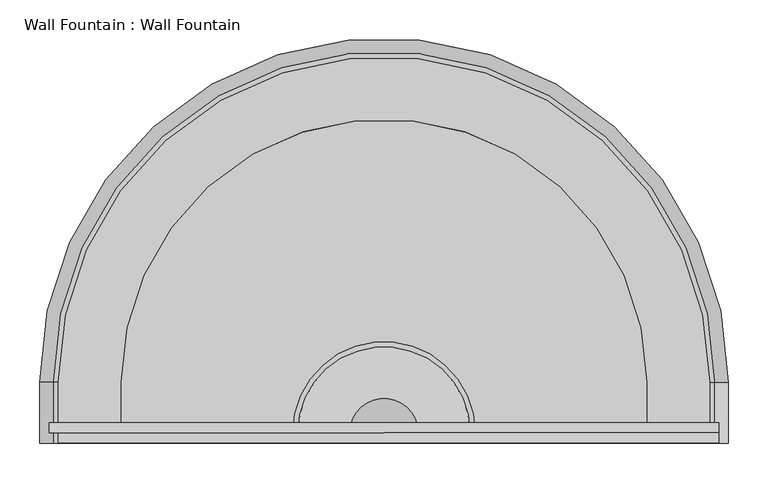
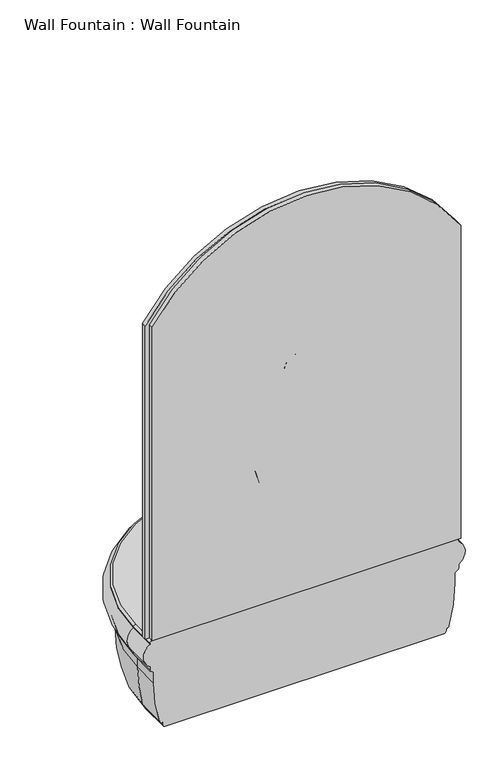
"""IFC4 building model written with IfcOpenShell, lengths in millimetres: proxy geometry, Wall Fountain : Wall Fountain."""

from ifc_helpers import new_model, si_unit, point, frame, frame_2d, origin, place, context, project, spatial, polyline, circle_curve, ellipse_curve, trimmed, segment, composite_curve, outline, extrude, source, transform, mapped, element, save
from ifc_brep_helpers import plane_surface, cylinder_surface, revolved_surface, advanced_brep


def wall_fountain_wall_fountain_90bc1599(model_context):
    return source(origin(), model_context, "Body", "SolidModel", [
        extrude(outline(composite_curve([segment(trimmed(circle_curve(frame_2d((1491.5508554, 5.8473581)), 489.6491446), [point((1752.6, 420.1052837))], [point((1752.6, -408.4105674))], False, "CARTESIAN"), True, "CONTINUOUS"), segment(polyline([(1752.6, -408.4105674), (863.6, -408.4105674), (863.6, 420.1052837), (1752.6, 420.1052837)]), True, "CONTINUOUS")], self_intersect=False)), frame((0.0, 152.4, 0.0), z_axis=(0.0, 1.0, 0.0), x_axis=(0.0, 0.0, 1.0)), (0.0, 0.0, 1.0), 12.7),
        advanced_brep(
        [(-408.4105674, 152.4, 863.6), (-414.7605674, 152.4, 857.25), (-414.7605674, 152.4, 855.6625), (-414.7605674, 152.4, 792.1625), (-414.7605674, 152.4, 782.7681008), (-412.0527778, 152.4, 777.5664853), (-404.3573365, 152.4, 772.1780793), (-404.3573365, 152.4, 742.0155793), (-388.670163, 152.4, 626.9501693), (-381.0, 152.4, 622.3), (-381.0, 152.4, 615.95), (-374.65, 152.4, 609.6), (374.65, 152.4, 609.6), (381.0, 152.4, 615.95), (381.0, 152.4, 622.3), (388.670163, 152.4, 626.9501693), (404.3573365, 152.4, 742.0155793), (404.3573365, 152.4, 772.1780793), (412.0527778, 152.4, 777.5664853), (414.7605674, 152.4, 782.7681008), (414.7605674, 152.4, 792.1625), (414.7605674, 152.4, 855.6625), (414.7605674, 152.4, 857.25), (408.4105674, 152.4, 863.6), (-414.7605674, 228.6, 857.25), (-414.7605674, 228.6, 855.6625), (-414.7605674, 228.6, 792.1625), (-414.7605674, 228.6, 782.7681008), (-412.0527778, 228.6, 777.5664853), (-404.3573365, 228.6, 772.1780793), (-404.3573365, 228.6, 742.0155793), (-388.670163, 228.6, 626.9501693), (-381.0, 228.6, 622.3), (-381.0, 228.6, 615.95), (-374.65, 228.6, 609.6), (374.65, 228.6, 609.6), (-330.2, 228.6, 863.6), (-330.2, 177.8, 863.6), (-330.2, 177.8, 660.4), (-330.2, 228.6, 660.4), (408.4105674, 165.1, 863.6), (-408.4105674, 165.1, 863.6), (330.2, 228.6, 863.6), (330.2, 177.8, 863.6), (408.4105674, 177.8, 863.6), (408.4105674, 228.6, 863.6), (-408.4105674, 228.6, 863.6), (-408.4105674, 177.8, 863.6), (414.7605674, 228.6, 857.25), (414.7605674, 228.6, 855.6625), (414.7605674, 228.6, 792.1625), (414.7605674, 228.6, 782.7681008), (412.0527778, 228.6, 777.5664853), (404.3573365, 228.6, 772.1780793), (404.3573365, 228.6, 742.0155793), (388.670163, 228.6, 626.9501693), (381.0, 228.6, 622.3), (381.0, 228.6, 615.95), (330.2, 228.6, 660.4), (330.2, 177.8, 660.4), (-420.1052837, 177.8, 863.6), (-420.1052837, 177.8, 1752.6), (420.1052837, 177.8, 1752.6), (420.1052837, 177.8, 863.6), (-388.3552837, 177.8, 1743.0595447), (-388.3552837, 177.8, 895.35), (388.3552837, 177.8, 895.35), (388.3552837, 177.8, 1743.0595447), (-420.1052837, 165.1, 1752.6), (420.1052837, 165.1, 1752.6), (-420.1052837, 165.1, 863.6), (420.1052837, 165.1, 863.6), (-356.6052837, 165.1, 1733.1585546), (356.6052837, 165.1, 1733.1585546), (356.6052837, 165.1, 927.1), (-356.6052837, 165.1, 927.1), (-356.6052837, 171.45, 1733.1585546), (356.6052837, 171.45, 1733.1585546), (-356.6052837, 171.45, 927.1), (356.6052837, 171.45, 927.1), (-388.3552837, 171.45, 1743.0595447), (388.3552837, 171.45, 1743.0595447), (388.3552837, 171.45, 895.35), (-388.3552837, 171.45, 895.35)],
        [
            (0, 1, circle_curve(frame((-408.4105674, 152.4, 857.25), z_axis=(0.0, -1.0, 0.0), x_axis=(-1.0, 0.0, 0.0)), 6.35)),
            (1, 2),
            (2, 3, circle_curve(frame((-393.7, 152.4, 823.9125), z_axis=(0.0, -1.0, 0.0), x_axis=(-1.0, 0.0, 0.0)), 38.1)),
            (3, 4),
            (4, 5, circle_curve(frame((-408.4105674, 152.4, 782.7681008), z_axis=(0.0, -1.0, 0.0), x_axis=(-1.0, 0.0, 0.0)), 6.35)),
            (5, 6),
            (6, 7),
            (7, 8, circle_curve(frame((25.4886141, 152.4, 742.0155793), z_axis=(0.0, -1.0, 0.0), x_axis=(-1.0, 0.0, 0.0)), 429.8459505)),
            (8, 9, circle_curve(frame((-382.3631056, 152.4, 628.7024541), z_axis=(0.0, -1.0, 0.0), x_axis=(-1.0, 0.0, 0.0)), 6.5459511)),
            (9, 10),
            (10, 11, circle_curve(frame((-374.65, 152.4, 615.95), z_axis=(0.0, -1.0, 0.0), x_axis=(-1.0, 0.0, 0.0)), 6.35)),
            (11, 12),
            (12, 13, circle_curve(frame((374.65, 152.4, 615.95), z_axis=(0.0, -1.0, 0.0), x_axis=(1.0, 0.0, 0.0)), 6.35)),
            (13, 14),
            (14, 15, circle_curve(frame((382.3631056, 152.4, 628.7024541), z_axis=(0.0, -1.0, 0.0), x_axis=(1.0, 0.0, 0.0)), 6.5459511)),
            (15, 16, circle_curve(frame((-25.4886141, 152.4, 742.0155793), z_axis=(0.0, -1.0, 0.0), x_axis=(1.0, 0.0, 0.0)), 429.8459505)),
            (16, 17),
            (17, 18),
            (18, 19, circle_curve(frame((408.4105674, 152.4, 782.7681008), z_axis=(0.0, -1.0, 0.0), x_axis=(1.0, 0.0, 0.0)), 6.35)),
            (19, 20),
            (20, 21, circle_curve(frame((393.7, 152.4, 823.9125), z_axis=(0.0, -1.0, 0.0), x_axis=(1.0, 0.0, 0.0)), 38.1)),
            (21, 22),
            (22, 23, circle_curve(frame((408.4105674, 152.4, 857.25), z_axis=(0.0, -1.0, 0.0), x_axis=(1.0, 0.0, 0.0)), 6.35)),
            (23, 0),
            (1, 24),
            (24, 25),
            (25, 2),
            (25, 26, circle_curve(frame((-393.7, 228.6, 823.9125), z_axis=(0.0, -1.0, 0.0), x_axis=(-1.0, 0.0, 0.0)), 38.1)),
            (26, 3),
            (26, 27),
            (27, 4),
            (27, 28, circle_curve(frame((-408.4105674, 228.6, 782.7681008), z_axis=(0.0, -1.0, 0.0), x_axis=(-1.0, 0.0, 0.0)), 6.35)),
            (28, 5),
            (28, 29),
            (29, 6),
            (29, 30),
            (30, 7),
            (30, 31, circle_curve(frame((25.4886141, 228.6, 742.0155793), z_axis=(0.0, -1.0, 0.0), x_axis=(-1.0, 0.0, 0.0)), 429.8459505)),
            (31, 8),
            (31, 32, circle_curve(frame((-382.3631056, 228.6, 628.7024541), z_axis=(0.0, -1.0, 0.0), x_axis=(-1.0, 0.0, 0.0)), 6.5459511)),
            (32, 9),
            (32, 33),
            (33, 10),
            (33, 34, circle_curve(frame((-374.65, 228.6, 615.95), z_axis=(0.0, -1.0, 0.0), x_axis=(-1.0, 0.0, 0.0)), 6.35)),
            (34, 11),
            (34, 35, circle_curve(frame((0.0, 228.6, 609.6), z_axis=(0.0, 0.0, -1.0), x_axis=(-1.0, 0.0, 0.0)), 374.65)),
            (35, 12),
            (36, 37),
            (37, 38),
            (38, 39),
            (39, 36),
            (23, 40),
            (40, 41),
            (41, 0),
            (36, 42, circle_curve(frame((0.0, 228.6, 863.6), z_axis=(0.0, 0.0, -1.0), x_axis=(-1.0, 0.0, 0.0)), 330.2)),
            (42, 43),
            (43, 44),
            (44, 45),
            (45, 46, circle_curve(frame((0.0, 228.6, 863.6), z_axis=(0.0, 0.0, 1.0), x_axis=(-1.0, 0.0, 0.0)), 408.4105674)),
            (46, 47),
            (47, 37),
            (24, 48, circle_curve(frame((0.0, 228.6, 857.25), z_axis=(0.0, 0.0, -1.0), x_axis=(-1.0, 0.0, 0.0)), 414.7605674)),
            (48, 49),
            (49, 25, circle_curve(frame((0.0, 228.6, 855.6625), z_axis=(0.0, 0.0, 1.0), x_axis=(-1.0, 0.0, 0.0)), 414.7605674)),
            (49, 50, circle_curve(frame((393.7, 228.6, 823.9125), z_axis=(0.0, 1.0, 0.0), x_axis=(1.0, 0.0, 0.0)), 38.1)),
            (50, 26, circle_curve(frame((0.0, 228.6, 792.1625), z_axis=(0.0, 0.0, 1.0), x_axis=(-1.0, 0.0, 0.0)), 414.7605674)),
            (50, 51),
            (51, 27, circle_curve(frame((0.0, 228.6, 782.7681008), z_axis=(0.0, 0.0, 1.0), x_axis=(-1.0, 0.0, 0.0)), 414.7605674)),
            (51, 52, circle_curve(frame((408.4105674, 228.6, 782.7681008), z_axis=(0.0, 1.0, 0.0), x_axis=(1.0, 0.0, 0.0)), 6.35)),
            (52, 28, circle_curve(frame((0.0, 228.6, 777.5664853), z_axis=(0.0, 0.0, 1.0), x_axis=(-1.0, 0.0, 0.0)), 412.0527778)),
            (52, 53),
            (53, 29, circle_curve(frame((0.0, 228.6, 772.1780793), z_axis=(0.0, 0.0, 1.0), x_axis=(-1.0, 0.0, 0.0)), 404.3573365)),
            (53, 54),
            (54, 30, circle_curve(frame((0.0, 228.6, 742.0155793), z_axis=(0.0, 0.0, 1.0), x_axis=(-1.0, 0.0, 0.0)), 404.3573365)),
            (54, 55, circle_curve(frame((-25.4886141, 228.6, 742.0155793), z_axis=(0.0, 1.0, 0.0), x_axis=(1.0, 0.0, 0.0)), 429.8459505)),
            (55, 31, circle_curve(frame((0.0, 228.6, 626.9501693), z_axis=(0.0, 0.0, 1.0), x_axis=(-1.0, 0.0, 0.0)), 388.670163)),
            (55, 56, circle_curve(frame((382.3631056, 228.6, 628.7024541), z_axis=(0.0, 1.0, 0.0), x_axis=(1.0, 0.0, 0.0)), 6.5459511)),
            (56, 32, circle_curve(frame((0.0, 228.6, 622.3), z_axis=(0.0, 0.0, 1.0), x_axis=(-1.0, 0.0, 0.0)), 381.0)),
            (56, 57),
            (57, 33, circle_curve(frame((0.0, 228.6, 615.95), z_axis=(0.0, 0.0, 1.0), x_axis=(-1.0, 0.0, 0.0)), 381.0)),
            (57, 35, circle_curve(frame((374.65, 228.6, 615.95), z_axis=(0.0, 1.0, 0.0), x_axis=(1.0, 0.0, 0.0)), 6.35)),
            (39, 58, circle_curve(frame((0.0, 228.6, 660.4), z_axis=(0.0, 0.0, -1.0), x_axis=(-1.0, 0.0, 0.0)), 330.2)),
            (58, 42),
            (21, 49),
            (48, 22),
            (20, 50),
            (19, 51),
            (18, 52),
            (17, 53),
            (16, 54),
            (15, 55),
            (14, 56),
            (13, 57),
            (58, 59),
            (59, 43),
            (41, 47),
            (46, 24, circle_curve(frame((-408.4105674, 228.6, 857.25), z_axis=(0.0, -1.0, 0.0), x_axis=(-1.0, 0.0, 0.0)), 6.35)),
            (45, 48, circle_curve(frame((408.4105674, 228.6, 857.25), z_axis=(0.0, 1.0, 0.0), x_axis=(1.0, 0.0, 0.0)), 6.35)),
            (44, 40),
            (47, 60),
            (60, 61),
            (61, 62, circle_curve(frame((0.0, 177.8, 1480.8797695), z_axis=(0.0, 1.0, 0.0), x_axis=(0.8396727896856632, 0.0, 0.5430926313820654)), 500.3202305)),
            (62, 63),
            (63, 44),
            (59, 38),
            (64, 65),
            (65, 66),
            (66, 67),
            (67, 64, circle_curve(frame((0.0, 177.8, 1480.8797695), z_axis=(0.0, -1.0, 0.0), x_axis=(0.8396727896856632, 0.0, 0.5430926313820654)), 468.5702305)),
            (68, 69, circle_curve(frame((0.0, 165.1, 1480.8797695), z_axis=(0.0, 1.0, 0.0), x_axis=(0.8396727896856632, 0.0, 0.5430926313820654)), 500.3202305)),
            (69, 62),
            (61, 68),
            (68, 70),
            (70, 41),
            (40, 71),
            (71, 69),
            (72, 73, circle_curve(frame((0.0, 165.1, 1480.8797695), z_axis=(0.0, 1.0, 0.0), x_axis=(0.8396727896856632, 0.0, 0.5430926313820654)), 436.8202305)),
            (73, 74),
            (74, 75),
            (75, 72),
            (72, 76),
            (76, 77, circle_curve(frame((0.0, 171.45, 1480.8797695), z_axis=(0.0, 1.0, 0.0), x_axis=(0.8396727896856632, 0.0, 0.5430926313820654)), 436.8202305)),
            (77, 73),
            (60, 70),
            (75, 78),
            (78, 76),
            (63, 71),
            (74, 79),
            (79, 78),
            (77, 79),
            (80, 81, circle_curve(frame((0.0, 171.45, 1480.8797695), z_axis=(0.0, 1.0, 0.0), x_axis=(0.8396727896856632, 0.0, 0.5430926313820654)), 468.5702305)),
            (81, 82),
            (82, 83),
            (83, 80),
            (67, 81),
            (80, 64),
            (83, 65),
            (82, 66),
        ],
        [
            plane_surface(frame((-431.8, 152.4, 609.6), z_axis=(0.0, -1.0, 0.0), x_axis=(0.0, 0.0, 1.0))),
            plane_surface(frame((-414.7605674, 152.4, 857.25), z_axis=(-1.0, 0.0, 0.0), x_axis=(0.0, 1.0, 0.0))),
            cylinder_surface(frame((-393.7, 152.4, 823.9125), z_axis=(0.0, -1.0, 0.0), x_axis=(-1.0, 0.0, 0.0)), 38.1),
            plane_surface(frame((-414.7605674, 152.4, 792.1625), z_axis=(-1.0, 0.0, 0.0), x_axis=(0.0, 1.0, 0.0))),
            cylinder_surface(frame((-408.4105674, 152.4, 782.7681008), z_axis=(0.0, -1.0, 0.0), x_axis=(-1.0, 0.0, 0.0)), 6.35),
            plane_surface(frame((-412.0527778, 152.4, 777.5664853), z_axis=(-0.5735764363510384, 0.0, -0.8191520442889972), x_axis=(0.0, 1.0, 0.0))),
            plane_surface(frame((-404.3573365, 152.4, 772.1780793), z_axis=(-1.0, 0.0, 0.0), x_axis=(0.0, 1.0, 0.0))),
            cylinder_surface(frame((25.4886141, 152.4, 742.0155793), z_axis=(0.0, -1.0, 0.0), x_axis=(-1.0, 0.0, 0.0)), 429.8459505),
            cylinder_surface(frame((-382.3631056, 152.4, 628.7024541), z_axis=(0.0, -1.0, 0.0), x_axis=(-1.0, 0.0, 0.0)), 6.5459511),
            plane_surface(frame((-381.0, 152.4, 622.3), z_axis=(-1.0, 0.0, 0.0), x_axis=(0.0, 1.0, 0.0))),
            cylinder_surface(frame((-374.65, 152.4, 615.95), z_axis=(0.0, -1.0, 0.0), x_axis=(-1.0, 0.0, 0.0)), 6.35),
            plane_surface(frame((-374.65, 152.4, 609.6), z_axis=(0.0, 0.0, -1.0), x_axis=(0.0, 1.0, 0.0))),
            plane_surface(frame((-330.2, 152.4, 609.6), z_axis=(1.0, 0.0, 0.0), x_axis=(0.0, 1.0, 0.0))),
            plane_surface(frame((-330.2, 152.4, 863.6), z_axis=(0.0, 0.0, 1.0), x_axis=(0.0, 1.0, 0.0))),
            cylinder_surface(frame((0.0, 228.6, 609.6), z_axis=(0.0, 0.0, -1.0), x_axis=(-1.0, 0.0, 0.0)), 414.7605674),
            revolved_surface(trimmed(ellipse_curve(frame((-393.7, 228.6, 823.9125), z_axis=(0.0, -1.0, 0.0), x_axis=(-1.0, 0.0, 0.0)), 38.1, 38.1), [point((-414.7605674, 228.6, 855.6625))], [point((-414.7605674, 228.6, 792.1625))], True, "CARTESIAN"), (0.0, 228.6, 609.6), (0.0, 0.0, -1.0)),
            revolved_surface(trimmed(ellipse_curve(frame((-408.4105674, 228.6, 782.7681008), z_axis=(0.0, -1.0, 0.0), x_axis=(-1.0, 0.0, 0.0)), 6.35, 6.35), [point((-414.7605674, 228.6, 782.7681008))], [point((-412.0527778, 228.6, 777.5664853))], True, "CARTESIAN"), (0.0, 228.6, 609.6), (0.0, 0.0, -1.0)),
            revolved_surface(polyline([(-412.0527778, 228.6, 777.5664853), (-404.3573365, 228.6, 772.1780793)]), (0.0, 228.6, 609.6), (0.0, 0.0, -1.0)),
            cylinder_surface(frame((0.0, 228.6, 609.6), z_axis=(0.0, 0.0, -1.0), x_axis=(-1.0, 0.0, 0.0)), 404.3573365),
            revolved_surface(trimmed(ellipse_curve(frame((25.4886141, 228.6, 742.0155793), z_axis=(0.0, -1.0, 0.0), x_axis=(-1.0, 0.0, 0.0)), 429.8459505, 429.8459505), [point((-404.3573365, 228.6, 742.0155793))], [point((-388.670163, 228.6, 626.9501693))], True, "CARTESIAN"), (0.0, 228.6, 609.6), (0.0, 0.0, -1.0)),
            revolved_surface(trimmed(ellipse_curve(frame((-382.3631056, 228.6, 628.7024541), z_axis=(0.0, -1.0, 0.0), x_axis=(-1.0, 0.0, 0.0)), 6.5459511, 6.5459511), [point((-388.670163, 228.6, 626.9501693))], [point((-381.0, 228.6, 622.3))], True, "CARTESIAN"), (0.0, 228.6, 609.6), (0.0, 0.0, -1.0)),
            cylinder_surface(frame((0.0, 228.6, 609.6), z_axis=(0.0, 0.0, -1.0), x_axis=(-1.0, 0.0, 0.0)), 381.0),
            revolved_surface(trimmed(ellipse_curve(frame((-374.65, 228.6, 615.95), z_axis=(0.0, -1.0, 0.0), x_axis=(-1.0, 0.0, 0.0)), 6.35, 6.35), [point((-381.0, 228.6, 615.95))], [point((-374.65, 228.6, 609.6))], True, "CARTESIAN"), (0.0, 228.6, 609.6), (0.0, 0.0, -1.0)),
            revolved_surface(polyline([(-330.2, 228.6, 660.4), (-330.2, 228.6, 863.6)]), (0.0, 228.6, 609.6), (0.0, 0.0, -1.0)),
            plane_surface(frame((414.7605674, 228.6, 857.25), z_axis=(1.0, 0.0, 0.0), x_axis=(0.0, -1.0, 0.0))),
            cylinder_surface(frame((393.7, 228.6, 823.9125), z_axis=(0.0, 1.0, 0.0), x_axis=(1.0, 0.0, 0.0)), 38.1),
            plane_surface(frame((414.7605674, 228.6, 792.1625), z_axis=(1.0, 0.0, 0.0), x_axis=(0.0, -1.0, 0.0))),
            cylinder_surface(frame((408.4105674, 228.6, 782.7681008), z_axis=(0.0, 1.0, 0.0), x_axis=(1.0, 0.0, 0.0)), 6.35),
            plane_surface(frame((412.0527778, 228.6, 777.5664853), z_axis=(0.5735764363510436, 0.0, -0.8191520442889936), x_axis=(0.0, -1.0, 0.0))),
            plane_surface(frame((404.3573365, 228.6, 772.1780793), z_axis=(1.0, 0.0, 0.0), x_axis=(0.0, -1.0, 0.0))),
            cylinder_surface(frame((-25.4886141, 228.6, 742.0155793), z_axis=(0.0, 1.0, 0.0), x_axis=(1.0, 0.0, 0.0)), 429.8459505),
            cylinder_surface(frame((382.3631056, 228.6, 628.7024541), z_axis=(0.0, 1.0, 0.0), x_axis=(1.0, 0.0, 0.0)), 6.5459511),
            plane_surface(frame((381.0, 228.6, 622.3), z_axis=(1.0, 0.0, 0.0), x_axis=(0.0, -1.0, 0.0))),
            cylinder_surface(frame((374.65, 228.6, 615.95), z_axis=(0.0, 1.0, 0.0), x_axis=(1.0, 0.0, 0.0)), 6.35),
            plane_surface(frame((330.2, 228.6, 609.6), z_axis=(-1.0, 0.0, 0.0), x_axis=(0.0, -1.0, 0.0))),
            cylinder_surface(frame((-408.4105674, 152.4, 857.25), z_axis=(0.0, -1.0, 0.0), x_axis=(-1.0, 0.0, 0.0)), 6.35),
            revolved_surface(trimmed(ellipse_curve(frame((-408.4105674, 228.6, 857.25), z_axis=(0.0, -1.0, 0.0), x_axis=(-1.0, 0.0, 0.0)), 6.35, 6.35), [point((-408.4105674, 228.6, 863.6))], [point((-414.7605674, 228.6, 857.25))], True, "CARTESIAN"), (0.0, 228.6, 609.6), (0.0, 0.0, -1.0)),
            cylinder_surface(frame((408.4105674, 228.6, 857.25), z_axis=(0.0, 1.0, 0.0), x_axis=(1.0, 0.0, 0.0)), 6.35),
            plane_surface(frame((330.2, 177.8, 660.4), z_axis=(0.0, 1.0, 0.0), x_axis=(-1.0, 0.0, 0.0))),
            plane_surface(frame((330.2, 228.6, 660.4), z_axis=(0.0, 0.0, 1.0), x_axis=(0.0, 1.0, 0.0))),
            cylinder_surface(frame((0.0, 152.4, 1480.8797695), z_axis=(0.0, -1.0, 0.0), x_axis=(0.8396727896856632, 0.0, 0.5430926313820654)), 500.3202305),
            plane_surface(frame((0.0, 165.1, 1480.8797695), z_axis=(0.0, -1.0, 0.0), x_axis=(0.8396727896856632, 0.0, 0.5430926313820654))),
            revolved_surface(polyline([(366.7860615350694, 165.1, 1718.1136179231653), (366.7860615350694, 171.45, 1718.1136179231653)]), (0.0, 152.4, 1480.8797695), (0.0, -1.0, 0.0)),
            plane_surface(frame((-420.1052837, 177.8, 1752.6), z_axis=(-1.0, 0.0, 0.0), x_axis=(0.0, 0.0, -1.0))),
            plane_surface(frame((-356.6052837, 165.1, 1733.1585546), z_axis=(1.0, 0.0, 0.0), x_axis=(0.0, 0.0, -1.0))),
            plane_surface(frame((-420.1052837, 177.8, 863.6), z_axis=(0.0, 0.0, -1.0), x_axis=(1.0, 0.0, 0.0))),
            plane_surface(frame((-356.6052837, 165.1, 927.1), z_axis=(0.0, 0.0, 1.0), x_axis=(1.0, 0.0, 0.0))),
            plane_surface(frame((420.1052837, 177.8, 863.6), z_axis=(1.0, 0.0, 0.0), x_axis=(0.0, 0.0, 1.0))),
            plane_surface(frame((356.6052837, 165.1, 927.1), z_axis=(-1.0, 0.0, 0.0), x_axis=(0.0, 0.0, 1.0))),
            plane_surface(frame((0.0, 171.45, 1480.8797695), z_axis=(0.0, 1.0, 0.0), x_axis=(0.8396727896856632, 0.0, 0.5430926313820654))),
            revolved_surface(polyline([(393.4456726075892, 171.45, 1735.356808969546), (393.4456726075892, 177.8, 1735.356808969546)]), (0.0, 152.4, 1480.8797695), (0.0, -1.0, 0.0)),
            plane_surface(frame((-388.3552837, 171.45, 1743.0595447), z_axis=(1.0, 0.0, 0.0), x_axis=(0.0, 0.0, -1.0))),
            plane_surface(frame((-388.3552837, 171.45, 895.35), z_axis=(0.0, 0.0, 1.0), x_axis=(1.0, 0.0, 0.0))),
            plane_surface(frame((388.3552837, 171.45, 895.35), z_axis=(-1.0, 0.0, 0.0), x_axis=(0.0, 0.0, 1.0))),
        ],
        [
            (0, [[1, 2, 3, 4, 5, 6, 7, 8, 9, 10, 11, 12, 13, 14, 15, 16, 17, 18, 19, 20, 21, 22, 23, 24]]),
            (1, [[-2, 25, 26, 27]]),
            (2, [[-3, -27, 28, 29]]),
            (3, [[-4, -29, 30, 31]]),
            (4, [[-5, -31, 32, 33]]),
            (5, [[-6, -33, 34, 35]]),
            (6, [[-7, -35, 36, 37]]),
            (7, [[-8, -37, 38, 39]]),
            (8, [[-9, -39, 40, 41]]),
            (9, [[-10, -41, 42, 43]]),
            (10, [[-11, -43, 44, 45]]),
            (11, [[-45, 46, 47, -12]]),
            (12, [[48, 49, 50, 51]]),
            (13, [[-24, 52, 53, 54]]),
            (13, [[55, 56, 57, 58, 59, 60, 61, -48]]),
            (14, [[-26, 62, 63, 64]]),
            (15, [[-28, -64, 65, 66]]),
            (14, [[-30, -66, 67, 68]]),
            (16, [[-32, -68, 69, 70]]),
            (17, [[-34, -70, 71, 72]]),
            (18, [[-36, -72, 73, 74]]),
            (19, [[-38, -74, 75, 76]]),
            (20, [[-40, -76, 77, 78]]),
            (21, [[-42, -78, 79, 80]]),
            (22, [[-44, -80, 81, -46]]),
            (23, [[-55, -51, 82, 83]]),
            (24, [[-22, 84, -63, 85]]),
            (25, [[-21, 86, -65, -84]]),
            (26, [[-20, 87, -67, -86]]),
            (27, [[-19, 88, -69, -87]]),
            (28, [[-18, 89, -71, -88]]),
            (29, [[-17, 90, -73, -89]]),
            (30, [[-16, 91, -75, -90]]),
            (31, [[-15, 92, -77, -91]]),
            (32, [[-14, 93, -79, -92]]),
            (33, [[-13, -47, -81, -93]]),
            (34, [[-56, -83, 94, 95]]),
            (35, [[-1, -54, 96, -60, 97, -25]]),
            (36, [[-59, 98, -62, -97]]),
            (37, [[-23, -85, -98, -58, 99, -52]]),
            (38, [[-49, -61, 100, 101, 102, 103, 104, -57, -95, 105], [106, 107, 108, 109]]),
            (39, [[-50, -105, -94, -82]]),
            (40, [[110, 111, -102, 112]]),
            (41, [[-110, 113, 114, -53, 115, 116], [117, 118, 119, 120]]),
            (42, [[-117, 121, 122, 123]]),
            (43, [[-112, -101, 124, -113]]),
            (44, [[-120, 125, 126, -121]]),
            (45, [[-124, -100, -96, -114]]),
            (45, [[127, -115, -99, -104]]),
            (46, [[-119, 128, 129, -125]]),
            (47, [[-111, -116, -127, -103]]),
            (48, [[-118, -123, 130, -128]]),
            (49, [[131, 132, 133, 134], [-122, -126, -129, -130]]),
            (50, [[-109, 135, -131, 136]]),
            (51, [[-106, -136, -134, 137]]),
            (52, [[-107, -137, -133, 138]]),
            (53, [[-108, -138, -132, -135]]),
        ],
    ),
        advanced_brep(
        [(0.0, 165.1, 1105.0127234), (-107.9490786, 165.1, 1238.25), (-114.3, 165.1, 1238.25), (0.0, 165.1, 1098.55), (114.3, 165.1, 1238.25), (107.9490786, 165.1, 1238.25)],
        [
            (0, 1, circle_curve(frame((25.3806527, 165.1, 1235.9250795), z_axis=(0.0, 1.0, 0.0), x_axis=(1.0, 0.0, 0.0)), 133.35)),
            (1, 2),
            (2, 3, circle_curve(frame((25.3806527, 165.1, 1235.9250795), z_axis=(0.0, -1.0, 0.0), x_axis=(1.0, 0.0, 0.0)), 139.7)),
            (3, 0),
            (3, 4, circle_curve(frame((-25.3806527, 165.1, 1235.9250795), z_axis=(0.0, -1.0, 0.0), x_axis=(-1.0, 0.0, 0.0)), 139.7)),
            (4, 5),
            (5, 0, circle_curve(frame((-25.3806527, 165.1, 1235.9250795), z_axis=(0.0, 1.0, 0.0), x_axis=(-1.0, 0.0, 0.0)), 133.35)),
            (5, 1, circle_curve(frame((0.0, 165.1, 1238.25), z_axis=(0.0, 0.0, 1.0), x_axis=(-1.0, 0.0, 0.0)), 107.9490786)),
            (4, 2, circle_curve(frame((0.0, 165.1, 1238.25), z_axis=(0.0, 0.0, 1.0), x_axis=(-1.0, 0.0, 0.0)), 114.3)),
        ],
        [
            plane_surface(frame((0.0, 165.1, 1105.0127234), z_axis=(0.0, -1.0, 0.0), x_axis=(-1.0, 0.0, 0.0))),
            plane_surface(frame((0.0, 165.1, 1105.0127234), z_axis=(0.0, -1.0, 0.0), x_axis=(1.0, 0.0, 0.0))),
            revolved_surface(trimmed(ellipse_curve(frame((25.3806527, 165.1, 1235.9250795), z_axis=(0.0, 1.0, 0.0), x_axis=(1.0, 0.0, 0.0)), 133.35, 133.35), [point((0.0, 165.1, 1105.0127234))], [point((-107.9490786, 165.1, 1238.25))], True, "CARTESIAN"), (0.0, 165.1, 1105.0127234), (0.0, 0.0, -1.0)),
            plane_surface(frame((0.0, 165.1, 1238.25), z_axis=(0.0, 0.0, 1.0), x_axis=(-1.0, 0.0, 0.0))),
            revolved_surface(trimmed(ellipse_curve(frame((25.3806527, 165.1, 1235.9250795), z_axis=(0.0, -1.0, 0.0), x_axis=(1.0, 0.0, 0.0)), 139.7, 139.7), [point((-114.3, 165.1, 1238.25))], [point((0.0, 165.1, 1098.55))], True, "CARTESIAN"), (0.0, 165.1, 1105.0127234), (0.0, 0.0, -1.0)),
        ],
        [
            (0, [[1, 2, 3, 4]]),
            (1, [[5, 6, 7, -4]]),
            (2, [[8, -1, -7]]),
            (3, [[9, -2, -8, -6]]),
            (4, [[-3, -9, -5]]),
        ],
    ),
        advanced_brep(
        [(0.0, 165.1, 1523.1639787), (0.0, 165.1, 1525.5875), (-42.8625, 165.1, 1473.2), (-40.4809045, 165.1, 1473.2), (40.4809045, 165.1, 1473.2), (42.8625, 165.1, 1473.2)],
        [
            (0, 1),
            (1, 2, circle_curve(frame((9.5177448, 165.1, 1474.0718452), z_axis=(0.0, -1.0, 0.0), x_axis=(1.0, 0.0, 0.0)), 52.3875)),
            (2, 3),
            (3, 0, circle_curve(frame((9.5177448, 165.1, 1474.0718452), z_axis=(0.0, 1.0, 0.0), x_axis=(1.0, 0.0, 0.0)), 50.00625)),
            (0, 4, circle_curve(frame((-9.5177448, 165.1, 1474.0718452), z_axis=(0.0, 1.0, 0.0), x_axis=(-1.0, 0.0, 0.0)), 50.00625)),
            (4, 5),
            (5, 1, circle_curve(frame((-9.5177448, 165.1, 1474.0718452), z_axis=(0.0, -1.0, 0.0), x_axis=(-1.0, 0.0, 0.0)), 52.3875)),
            (3, 4, circle_curve(frame((0.0, 165.1, 1473.2), z_axis=(0.0, 0.0, -1.0), x_axis=(-1.0, 0.0, 0.0)), 40.4809045)),
            (2, 5, circle_curve(frame((0.0, 165.1, 1473.2), z_axis=(0.0, 0.0, -1.0), x_axis=(-1.0, 0.0, 0.0)), 42.8625)),
        ],
        [
            plane_surface(frame((0.0, 165.1, 1520.7404574), z_axis=(0.0, -1.0, 0.0), x_axis=(-1.0, 0.0, 0.0))),
            plane_surface(frame((0.0, 165.1, 1520.7404574), z_axis=(0.0, -1.0, 0.0), x_axis=(1.0, 0.0, 0.0))),
            revolved_surface(trimmed(ellipse_curve(frame((9.5177448, 165.1, 1474.0718452), z_axis=(0.0, 1.0, 0.0), x_axis=(1.0, 0.0, 0.0)), 50.00625, 50.00625), [point((-40.4809045, 165.1, 1473.2))], [point((0.0, 165.1, 1523.1639787))], True, "CARTESIAN"), (0.0, 165.1, 1520.7404574), (0.0, 0.0, -1.0)),
            plane_surface(frame((0.0, 165.1, 1473.2), z_axis=(0.0, 0.0, -1.0), x_axis=(-1.0, 0.0, 0.0))),
            revolved_surface(trimmed(ellipse_curve(frame((9.5177448, 165.1, 1474.0718452), z_axis=(0.0, -1.0, 0.0), x_axis=(1.0, 0.0, 0.0)), 52.3875, 52.3875), [point((0.0, 165.1, 1525.5875))], [point((-42.8625, 165.1, 1473.2))], True, "CARTESIAN"), (0.0, 165.1, 1520.7404574), (0.0, 0.0, -1.0)),
        ],
        [
            (0, [[1, 2, 3, 4]]),
            (1, [[5, 6, 7, -1]]),
            (2, [[-4, 8, -5]]),
            (3, [[-8, -3, 9, -6]]),
            (4, [[-9, -2, -7]]),
        ],
    ),
    ])


if __name__ == "__main__":
    model = new_model("IFC4")
    model_context = context("Model", 3, world=origin())
    ifc_project = project(units=[si_unit("LENGTHUNIT", "METRE", prefix="MILLI")], contexts=[model_context])
    site = spatial("IfcSite", under=ifc_project)
    building = spatial("IfcBuilding", under=site)
    placement = place(None, origin())
    wall_fountain_wall_fountain_shape = wall_fountain_wall_fountain_90bc1599(model_context)
    element("IfcBuildingElementProxy", 1, Name="Wall Fountain : Wall Fountain", ObjectType="Wall Fountain : Wall Fountain", at=placement, inside=building, context=model_context, shape_type="MappedRepresentation", body=[
        mapped(wall_fountain_wall_fountain_shape, transform((0.0, 0.0, 0.0), x_axis=(1.0, 0.0, 0.0), y_axis=(0.0, 1.0, 0.0), z_axis=(0.0, 0.0, 1.0))),
    ])
    save(model, "model.ifc")
